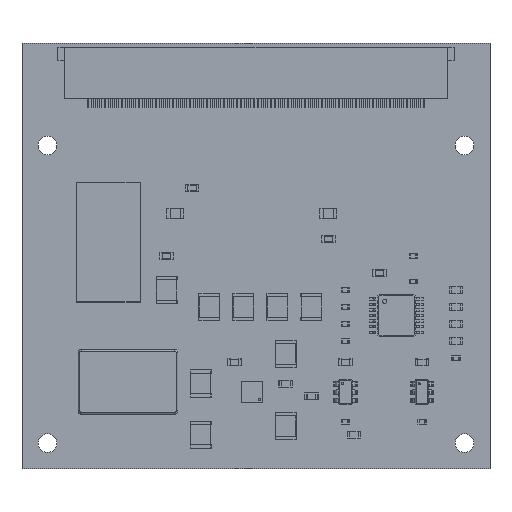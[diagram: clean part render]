
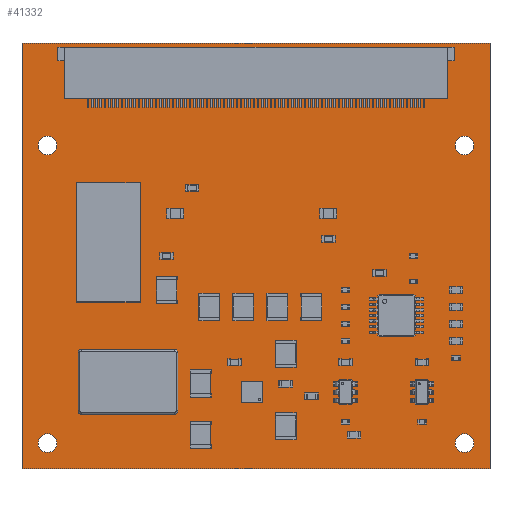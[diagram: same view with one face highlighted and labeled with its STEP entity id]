
A CAD part, top view. The second image highlights one B-rep face of the part: STEP entity #41332.
In plain terms, the highlighted planar face has unit normal (0, 0, 1).
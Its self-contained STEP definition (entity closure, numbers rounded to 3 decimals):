
#41110 = VERTEX_POINT('',#41111);
#41111 = CARTESIAN_POINT('',(55.,-15.,1.55));
#41117 = EDGE_CURVE('',#41110,#41118,#41120,.T.);
#41118 = VERTEX_POINT('',#41119);
#41119 = CARTESIAN_POINT('',(0.,-15.,1.55));
#41120 = LINE('',#41121,#41122);
#41121 = CARTESIAN_POINT('',(55.,-15.,1.55));
#41122 = VECTOR('',#41123,1.);
#41123 = DIRECTION('',(-1.,0.,0.));
#41150 = VERTEX_POINT('',#41151);
#41151 = CARTESIAN_POINT('',(55.,35.,1.55));
#41157 = EDGE_CURVE('',#41150,#41110,#41158,.T.);
#41158 = LINE('',#41159,#41160);
#41159 = CARTESIAN_POINT('',(55.,35.,1.55));
#41160 = VECTOR('',#41161,1.);
#41161 = DIRECTION('',(0.,-1.,0.));
#41179 = EDGE_CURVE('',#41118,#41180,#41182,.T.);
#41180 = VERTEX_POINT('',#41181);
#41181 = CARTESIAN_POINT('',(0.,35.,1.55));
#41182 = LINE('',#41183,#41184);
#41183 = CARTESIAN_POINT('',(0.,-15.,1.55));
#41184 = VECTOR('',#41185,1.);
#41185 = DIRECTION('',(0.,1.,0.));
#41332 = ADVANCED_FACE('',(#41333,#41344,#41355,#41366,#41377,#41388,
    #41399,#41410,#41421,#41432,#41443),#41454,.T.);
#41333 = FACE_BOUND('',#41334,.T.);
#41334 = EDGE_LOOP('',(#41335,#41336,#41337,#41343));
#41335 = ORIENTED_EDGE('',*,*,#41117,.F.);
#41336 = ORIENTED_EDGE('',*,*,#41157,.F.);
#41337 = ORIENTED_EDGE('',*,*,#41338,.F.);
#41338 = EDGE_CURVE('',#41180,#41150,#41339,.T.);
#41339 = LINE('',#41340,#41341);
#41340 = CARTESIAN_POINT('',(0.,35.,1.55));
#41341 = VECTOR('',#41342,1.);
#41342 = DIRECTION('',(1.,0.,0.));
#41343 = ORIENTED_EDGE('',*,*,#41179,.F.);
#41344 = FACE_BOUND('',#41345,.T.);
#41345 = EDGE_LOOP('',(#41346));
#41346 = ORIENTED_EDGE('',*,*,#41347,.T.);
#41347 = EDGE_CURVE('',#41348,#41348,#41350,.T.);
#41348 = VERTEX_POINT('',#41349);
#41349 = CARTESIAN_POINT('',(3.,-13.1,1.55));
#41350 = CIRCLE('',#41351,1.1);
#41351 = AXIS2_PLACEMENT_3D('',#41352,#41353,#41354);
#41352 = CARTESIAN_POINT('',(3.,-12.,1.55));
#41353 = DIRECTION('',(-0.,0.,-1.));
#41354 = DIRECTION('',(-0.,-1.,0.));
#41355 = FACE_BOUND('',#41356,.T.);
#41356 = EDGE_LOOP('',(#41357));
#41357 = ORIENTED_EDGE('',*,*,#41358,.T.);
#41358 = EDGE_CURVE('',#41359,#41359,#41361,.T.);
#41359 = VERTEX_POINT('',#41360);
#41360 = CARTESIAN_POINT('',(9.92,-3.5,1.55));
#41361 = CIRCLE('',#41362,0.5);
#41362 = AXIS2_PLACEMENT_3D('',#41363,#41364,#41365);
#41363 = CARTESIAN_POINT('',(9.92,-3.,1.55));
#41364 = DIRECTION('',(-0.,0.,-1.));
#41365 = DIRECTION('',(-0.,-1.,0.));
#41366 = FACE_BOUND('',#41367,.T.);
#41367 = EDGE_LOOP('',(#41368));
#41368 = ORIENTED_EDGE('',*,*,#41369,.T.);
#41369 = EDGE_CURVE('',#41370,#41370,#41372,.T.);
#41370 = VERTEX_POINT('',#41371);
#41371 = CARTESIAN_POINT('',(12.46,-3.5,1.55));
#41372 = CIRCLE('',#41373,0.5);
#41373 = AXIS2_PLACEMENT_3D('',#41374,#41375,#41376);
#41374 = CARTESIAN_POINT('',(12.46,-3.,1.55));
#41375 = DIRECTION('',(-0.,0.,-1.));
#41376 = DIRECTION('',(-0.,-1.,0.));
#41377 = FACE_BOUND('',#41378,.T.);
#41378 = EDGE_LOOP('',(#41379));
#41379 = ORIENTED_EDGE('',*,*,#41380,.T.);
#41380 = EDGE_CURVE('',#41381,#41381,#41383,.T.);
#41381 = VERTEX_POINT('',#41382);
#41382 = CARTESIAN_POINT('',(15.,-3.5,1.55));
#41383 = CIRCLE('',#41384,0.5);
#41384 = AXIS2_PLACEMENT_3D('',#41385,#41386,#41387);
#41385 = CARTESIAN_POINT('',(15.,-3.,1.55));
#41386 = DIRECTION('',(-0.,0.,-1.));
#41387 = DIRECTION('',(-0.,-1.,0.));
#41388 = FACE_BOUND('',#41389,.T.);
#41389 = EDGE_LOOP('',(#41390));
#41390 = ORIENTED_EDGE('',*,*,#41391,.T.);
#41391 = EDGE_CURVE('',#41392,#41392,#41394,.T.);
#41392 = VERTEX_POINT('',#41393);
#41393 = CARTESIAN_POINT('',(52.,-13.1,1.55));
#41394 = CIRCLE('',#41395,1.1);
#41395 = AXIS2_PLACEMENT_3D('',#41396,#41397,#41398);
#41396 = CARTESIAN_POINT('',(52.,-12.,1.55));
#41397 = DIRECTION('',(-0.,0.,-1.));
#41398 = DIRECTION('',(-0.,-1.,0.));
#41399 = FACE_BOUND('',#41400,.T.);
#41400 = EDGE_LOOP('',(#41401));
#41401 = ORIENTED_EDGE('',*,*,#41402,.T.);
#41402 = EDGE_CURVE('',#41403,#41403,#41405,.T.);
#41403 = VERTEX_POINT('',#41404);
#41404 = CARTESIAN_POINT('',(10.,8.45,1.55));
#41405 = CIRCLE('',#41406,0.55);
#41406 = AXIS2_PLACEMENT_3D('',#41407,#41408,#41409);
#41407 = CARTESIAN_POINT('',(10.,9.,1.55));
#41408 = DIRECTION('',(-0.,0.,-1.));
#41409 = DIRECTION('',(-0.,-1.,0.));
#41410 = FACE_BOUND('',#41411,.T.);
#41411 = EDGE_LOOP('',(#41412));
#41412 = ORIENTED_EDGE('',*,*,#41413,.T.);
#41413 = EDGE_CURVE('',#41414,#41414,#41416,.T.);
#41414 = VERTEX_POINT('',#41415);
#41415 = CARTESIAN_POINT('',(10.,10.99,1.55));
#41416 = CIRCLE('',#41417,0.55);
#41417 = AXIS2_PLACEMENT_3D('',#41418,#41419,#41420);
#41418 = CARTESIAN_POINT('',(10.,11.54,1.55));
#41419 = DIRECTION('',(-0.,0.,-1.));
#41420 = DIRECTION('',(-0.,-1.,0.));
#41421 = FACE_BOUND('',#41422,.T.);
#41422 = EDGE_LOOP('',(#41423));
#41423 = ORIENTED_EDGE('',*,*,#41424,.T.);
#41424 = EDGE_CURVE('',#41425,#41425,#41427,.T.);
#41425 = VERTEX_POINT('',#41426);
#41426 = CARTESIAN_POINT('',(10.,13.53,1.55));
#41427 = CIRCLE('',#41428,0.55);
#41428 = AXIS2_PLACEMENT_3D('',#41429,#41430,#41431);
#41429 = CARTESIAN_POINT('',(10.,14.08,1.55));
#41430 = DIRECTION('',(-0.,0.,-1.));
#41431 = DIRECTION('',(-0.,-1.,0.));
#41432 = FACE_BOUND('',#41433,.T.);
#41433 = EDGE_LOOP('',(#41434));
#41434 = ORIENTED_EDGE('',*,*,#41435,.T.);
#41435 = EDGE_CURVE('',#41436,#41436,#41438,.T.);
#41436 = VERTEX_POINT('',#41437);
#41437 = CARTESIAN_POINT('',(3.,21.9,1.55));
#41438 = CIRCLE('',#41439,1.1);
#41439 = AXIS2_PLACEMENT_3D('',#41440,#41441,#41442);
#41440 = CARTESIAN_POINT('',(3.,23.,1.55));
#41441 = DIRECTION('',(-0.,0.,-1.));
#41442 = DIRECTION('',(-0.,-1.,0.));
#41443 = FACE_BOUND('',#41444,.T.);
#41444 = EDGE_LOOP('',(#41445));
#41445 = ORIENTED_EDGE('',*,*,#41446,.T.);
#41446 = EDGE_CURVE('',#41447,#41447,#41449,.T.);
#41447 = VERTEX_POINT('',#41448);
#41448 = CARTESIAN_POINT('',(52.,21.9,1.55));
#41449 = CIRCLE('',#41450,1.1);
#41450 = AXIS2_PLACEMENT_3D('',#41451,#41452,#41453);
#41451 = CARTESIAN_POINT('',(52.,23.,1.55));
#41452 = DIRECTION('',(-0.,0.,-1.));
#41453 = DIRECTION('',(-0.,-1.,0.));
#41454 = PLANE('',#41455);
#41455 = AXIS2_PLACEMENT_3D('',#41456,#41457,#41458);
#41456 = CARTESIAN_POINT('',(0.,0.,1.55));
#41457 = DIRECTION('',(0.,0.,1.));
#41458 = DIRECTION('',(1.,0.,-0.));
